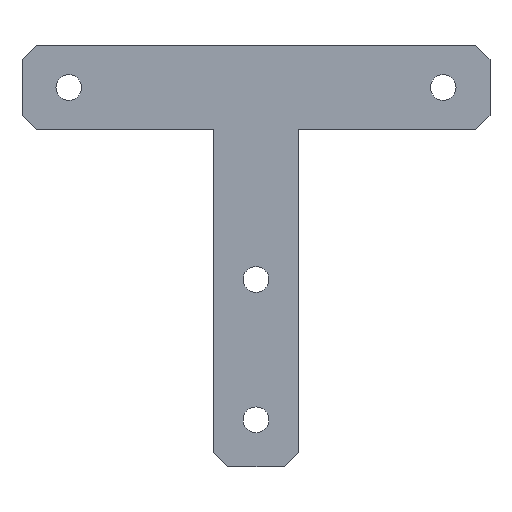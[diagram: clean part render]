
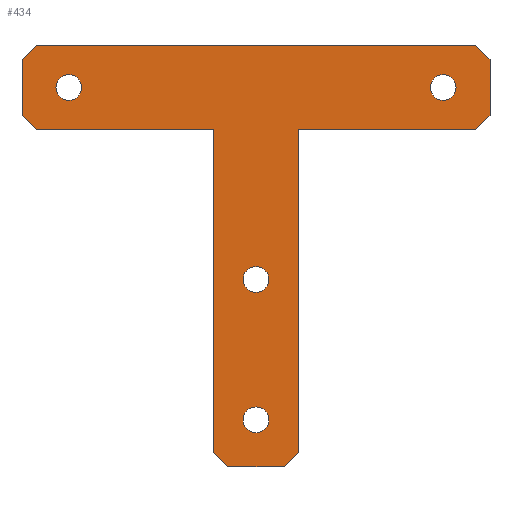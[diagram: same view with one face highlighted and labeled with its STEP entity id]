
A CAD part, top view. The second image highlights one B-rep face of the part: STEP entity #434.
In plain terms, the highlighted planar face has unit normal (0, 0, 1).
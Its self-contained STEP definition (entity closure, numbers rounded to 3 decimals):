
#1 = EDGE_CURVE ( 'NONE', #127, #451, #590, .T. ) ;
#2 = LINE ( 'NONE', #552, #592 ) ;
#11 = EDGE_CURVE ( 'NONE', #60, #60, #279, .T. ) ;
#14 = DIRECTION ( 'NONE',  ( 0., 0., 1. ) ) ;
#23 = VERTEX_POINT ( 'NONE', #629 ) ;
#28 = VERTEX_POINT ( 'NONE', #227 ) ;
#35 = EDGE_CURVE ( 'NONE', #303, #303, #610, .T. ) ;
#37 = DIRECTION ( 'NONE',  ( 0., 0., 1. ) ) ;
#39 = DIRECTION ( 'NONE',  ( 1., 0., 0. ) ) ;
#42 = CARTESIAN_POINT ( 'NONE',  ( 6., -10., 2. ) ) ;
#44 = CARTESIAN_POINT ( 'NONE',  ( -9., 62., 2. ) ) ;
#54 = LINE ( 'NONE', #330, #105 ) ;
#60 = VERTEX_POINT ( 'NONE', #89 ) ;
#61 = CARTESIAN_POINT ( 'NONE',  ( 50., 77., 2. ) ) ;
#65 = CARTESIAN_POINT ( 'NONE',  ( 50., 65., 2. ) ) ;
#66 = LINE ( 'NONE', #665, #573 ) ;
#68 = DIRECTION ( 'NONE',  ( 1., 0., 0. ) ) ;
#70 = EDGE_LOOP ( 'NONE', ( #102 ) ) ;
#72 = LINE ( 'NONE', #309, #639 ) ;
#82 = VECTOR ( 'NONE', #408, 1000. ) ;
#84 = ORIENTED_EDGE ( 'NONE', *, *, #394, .T. ) ;
#86 = CARTESIAN_POINT ( 'NONE',  ( -50., 77., 2. ) ) ;
#89 = CARTESIAN_POINT ( 'NONE',  ( 2.75, 30., 2. ) ) ;
#90 = LINE ( 'NONE', #301, #82 ) ;
#97 = VERTEX_POINT ( 'NONE', #61 ) ;
#102 = ORIENTED_EDGE ( 'NONE', *, *, #35, .F. ) ;
#103 = CARTESIAN_POINT ( 'NONE',  ( 9., -10., 2. ) ) ;
#105 = VECTOR ( 'NONE', #445, 1000. ) ;
#109 = VECTOR ( 'NONE', #631, 1000. ) ;
#122 = CIRCLE ( 'NONE', #564, 2.75 ) ;
#123 = VERTEX_POINT ( 'NONE', #489 ) ;
#127 = VERTEX_POINT ( 'NONE', #563 ) ;
#132 = EDGE_LOOP ( 'NONE', ( #274 ) ) ;
#133 = CARTESIAN_POINT ( 'NONE',  ( -63.5, 63.5, 2. ) ) ;
#140 = AXIS2_PLACEMENT_3D ( 'NONE', #244, #37, #39 ) ;
#141 = DIRECTION ( 'NONE',  ( 1., 0., 0. ) ) ;
#146 = CARTESIAN_POINT ( 'NONE',  ( 42.75, 71., 2. ) ) ;
#151 = FACE_BOUND ( 'NONE', #400, .T. ) ;
#165 = PLANE ( 'NONE',  #437 ) ;
#170 = ORIENTED_EDGE ( 'NONE', *, *, #455, .T. ) ;
#172 = EDGE_CURVE ( 'NONE', #579, #23, #219, .T. ) ;
#173 = CARTESIAN_POINT ( 'NONE',  ( 9., -7., 2. ) ) ;
#179 = VERTEX_POINT ( 'NONE', #42 ) ;
#206 = VERTEX_POINT ( 'NONE', #173 ) ;
#213 = VECTOR ( 'NONE', #141, 1000. ) ;
#214 = EDGE_CURVE ( 'NONE', #28, #419, #341, .T. ) ;
#218 = ORIENTED_EDGE ( 'NONE', *, *, #680, .T. ) ;
#219 = LINE ( 'NONE', #647, #270 ) ;
#220 = ORIENTED_EDGE ( 'NONE', *, *, #464, .T. ) ;
#226 = CARTESIAN_POINT ( 'NONE',  ( -7.5, 7.5, 2. ) ) ;
#227 = CARTESIAN_POINT ( 'NONE',  ( 47., 80., 2. ) ) ;
#231 = FACE_BOUND ( 'NONE', #461, .T. ) ;
#232 = ORIENTED_EDGE ( 'NONE', *, *, #632, .F. ) ;
#244 = CARTESIAN_POINT ( 'NONE',  ( 0., 0., 2. ) ) ;
#245 = FACE_BOUND ( 'NONE', #70, .T. ) ;
#248 = EDGE_CURVE ( 'NONE', #179, #206, #329, .T. ) ;
#251 = ORIENTED_EDGE ( 'NONE', *, *, #332, .T. ) ;
#264 = LINE ( 'NONE', #646, #371 ) ;
#265 = ORIENTED_EDGE ( 'NONE', *, *, #11, .F. ) ;
#270 = VECTOR ( 'NONE', #416, 1000. ) ;
#274 = ORIENTED_EDGE ( 'NONE', *, *, #577, .F. ) ;
#278 = DIRECTION ( 'NONE',  ( 0., 0., 1. ) ) ;
#279 = CIRCLE ( 'NONE', #499, 2.75 ) ;
#288 = CARTESIAN_POINT ( 'NONE',  ( 0., 30., 2. ) ) ;
#290 = FACE_OUTER_BOUND ( 'NONE', #677, .T. ) ;
#291 = ORIENTED_EDGE ( 'NONE', *, *, #308, .T. ) ;
#301 = CARTESIAN_POINT ( 'NONE',  ( 7.5, 7.5, 2. ) ) ;
#302 = CARTESIAN_POINT ( 'NONE',  ( -50., 80., 2. ) ) ;
#303 = VERTEX_POINT ( 'NONE', #146 ) ;
#307 = ORIENTED_EDGE ( 'NONE', *, *, #172, .T. ) ;
#308 = EDGE_CURVE ( 'NONE', #566, #518, #598, .T. ) ;
#309 = CARTESIAN_POINT ( 'NONE',  ( -9., -10., 2. ) ) ;
#323 = CARTESIAN_POINT ( 'NONE',  ( -50., 65., 2. ) ) ;
#326 = CARTESIAN_POINT ( 'NONE',  ( 0., 0., 2. ) ) ;
#327 = DIRECTION ( 'NONE',  ( 1., 0., 0. ) ) ;
#329 = LINE ( 'NONE', #627, #580 ) ;
#330 = CARTESIAN_POINT ( 'NONE',  ( 63.5, 63.5, 2. ) ) ;
#332 = EDGE_CURVE ( 'NONE', #419, #566, #496, .T. ) ;
#338 = DIRECTION ( 'NONE',  ( -1., 0., 0. ) ) ;
#341 = LINE ( 'NONE', #621, #453 ) ;
#342 = DIRECTION ( 'NONE',  ( 0.707, 0.707, 0. ) ) ;
#346 = DIRECTION ( 'NONE',  ( 0., 0., 1. ) ) ;
#354 = DIRECTION ( 'NONE',  ( 0.707, -0.707, 0. ) ) ;
#361 = ORIENTED_EDGE ( 'NONE', *, *, #214, .T. ) ;
#371 = VECTOR ( 'NONE', #354, 1000. ) ;
#378 = FACE_BOUND ( 'NONE', #132, .T. ) ;
#394 = EDGE_CURVE ( 'NONE', #451, #97, #2, .T. ) ;
#400 = EDGE_LOOP ( 'NONE', ( #265 ) ) ;
#401 = AXIS2_PLACEMENT_3D ( 'NONE', #452, #278, #568 ) ;
#404 = VERTEX_POINT ( 'NONE', #612 ) ;
#408 = DIRECTION ( 'NONE',  ( 0.707, -0.707, 0. ) ) ;
#416 = DIRECTION ( 'NONE',  ( 0., -1., 0. ) ) ;
#419 = VERTEX_POINT ( 'NONE', #550 ) ;
#434 = ADVANCED_FACE ( 'NONE', ( #378, #231, #290, #151, #245 ), #165, .T. ) ;
#437 = AXIS2_PLACEMENT_3D ( 'NONE', #326, #14, #68 ) ;
#439 = EDGE_CURVE ( 'NONE', #206, #404, #628, .T. ) ;
#445 = DIRECTION ( 'NONE',  ( -0.707, 0.707, 0. ) ) ;
#446 = ORIENTED_EDGE ( 'NONE', *, *, #248, .T. ) ;
#451 = VERTEX_POINT ( 'NONE', #65 ) ;
#452 = CARTESIAN_POINT ( 'NONE',  ( 40., 71., 2. ) ) ;
#453 = VECTOR ( 'NONE', #338, 1000. ) ;
#455 = EDGE_CURVE ( 'NONE', #97, #28, #54, .T. ) ;
#457 = VERTEX_POINT ( 'NONE', #636 ) ;
#461 = EDGE_LOOP ( 'NONE', ( #232 ) ) ;
#464 = EDGE_CURVE ( 'NONE', #583, #579, #66, .T. ) ;
#466 = DIRECTION ( 'NONE',  ( 0., -1., 0. ) ) ;
#471 = CARTESIAN_POINT ( 'NONE',  ( 9., 62., 2. ) ) ;
#489 = CARTESIAN_POINT ( 'NONE',  ( -6., -10., 2. ) ) ;
#496 = LINE ( 'NONE', #133, #655 ) ;
#497 = ORIENTED_EDGE ( 'NONE', *, *, #549, .T. ) ;
#499 = AXIS2_PLACEMENT_3D ( 'NONE', #288, #686, #512 ) ;
#512 = DIRECTION ( 'NONE',  ( 1., 0., 0. ) ) ;
#518 = VERTEX_POINT ( 'NONE', #323 ) ;
#519 = ORIENTED_EDGE ( 'NONE', *, *, #439, .T. ) ;
#524 = CARTESIAN_POINT ( 'NONE',  ( -40., 71., 2. ) ) ;
#532 = CARTESIAN_POINT ( 'NONE',  ( 2.75, 0., 2. ) ) ;
#536 = ORIENTED_EDGE ( 'NONE', *, *, #1, .T. ) ;
#538 = VECTOR ( 'NONE', #668, 1000. ) ;
#549 = EDGE_CURVE ( 'NONE', #23, #123, #264, .T. ) ;
#550 = CARTESIAN_POINT ( 'NONE',  ( -47., 80., 2. ) ) ;
#552 = CARTESIAN_POINT ( 'NONE',  ( 50., 62., 2. ) ) ;
#557 = EDGE_CURVE ( 'NONE', #404, #127, #688, .T. ) ;
#563 = CARTESIAN_POINT ( 'NONE',  ( 47., 62., 2. ) ) ;
#564 = AXIS2_PLACEMENT_3D ( 'NONE', #524, #346, #584 ) ;
#565 = EDGE_CURVE ( 'NONE', #518, #583, #90, .T. ) ;
#566 = VERTEX_POINT ( 'NONE', #86 ) ;
#568 = DIRECTION ( 'NONE',  ( 1., 0., 0. ) ) ;
#573 = VECTOR ( 'NONE', #327, 1000. ) ;
#577 = EDGE_CURVE ( 'NONE', #457, #457, #122, .T. ) ;
#579 = VERTEX_POINT ( 'NONE', #44 ) ;
#580 = VECTOR ( 'NONE', #342, 1000. ) ;
#583 = VERTEX_POINT ( 'NONE', #695 ) ;
#584 = DIRECTION ( 'NONE',  ( 1., 0., 0. ) ) ;
#590 = LINE ( 'NONE', #226, #109 ) ;
#592 = VECTOR ( 'NONE', #669, 1000. ) ;
#598 = LINE ( 'NONE', #302, #663 ) ;
#610 = CIRCLE ( 'NONE', #401, 2.75 ) ;
#612 = CARTESIAN_POINT ( 'NONE',  ( 9., 62., 2. ) ) ;
#614 = VERTEX_POINT ( 'NONE', #532 ) ;
#615 = ORIENTED_EDGE ( 'NONE', *, *, #565, .T. ) ;
#621 = CARTESIAN_POINT ( 'NONE',  ( 50., 80., 2. ) ) ;
#627 = CARTESIAN_POINT ( 'NONE',  ( 8., -8., 2. ) ) ;
#628 = LINE ( 'NONE', #103, #538 ) ;
#629 = CARTESIAN_POINT ( 'NONE',  ( -9., -7., 2. ) ) ;
#631 = DIRECTION ( 'NONE',  ( 0.707, 0.707, 0. ) ) ;
#632 = EDGE_CURVE ( 'NONE', #614, #614, #656, .T. ) ;
#636 = CARTESIAN_POINT ( 'NONE',  ( -37.25, 71., 2. ) ) ;
#639 = VECTOR ( 'NONE', #701, 1000. ) ;
#646 = CARTESIAN_POINT ( 'NONE',  ( -8., -8., 2. ) ) ;
#647 = CARTESIAN_POINT ( 'NONE',  ( -9., 62., 2. ) ) ;
#654 = ORIENTED_EDGE ( 'NONE', *, *, #557, .T. ) ;
#655 = VECTOR ( 'NONE', #691, 1000. ) ;
#656 = CIRCLE ( 'NONE', #140, 2.75 ) ;
#663 = VECTOR ( 'NONE', #466, 1000. ) ;
#665 = CARTESIAN_POINT ( 'NONE',  ( -50., 62., 2. ) ) ;
#668 = DIRECTION ( 'NONE',  ( 0., 1., 0. ) ) ;
#669 = DIRECTION ( 'NONE',  ( 0., 1., 0. ) ) ;
#677 = EDGE_LOOP ( 'NONE', ( #84, #170, #361, #251, #291, #615, #220, #307, #497, #218, #446, #519, #654, #536 ) ) ;
#680 = EDGE_CURVE ( 'NONE', #123, #179, #72, .T. ) ;
#686 = DIRECTION ( 'NONE',  ( 0., 0., 1. ) ) ;
#688 = LINE ( 'NONE', #471, #213 ) ;
#691 = DIRECTION ( 'NONE',  ( -0.707, -0.707, 0. ) ) ;
#695 = CARTESIAN_POINT ( 'NONE',  ( -47., 62., 2. ) ) ;
#701 = DIRECTION ( 'NONE',  ( 1., 0., 0. ) ) ;
